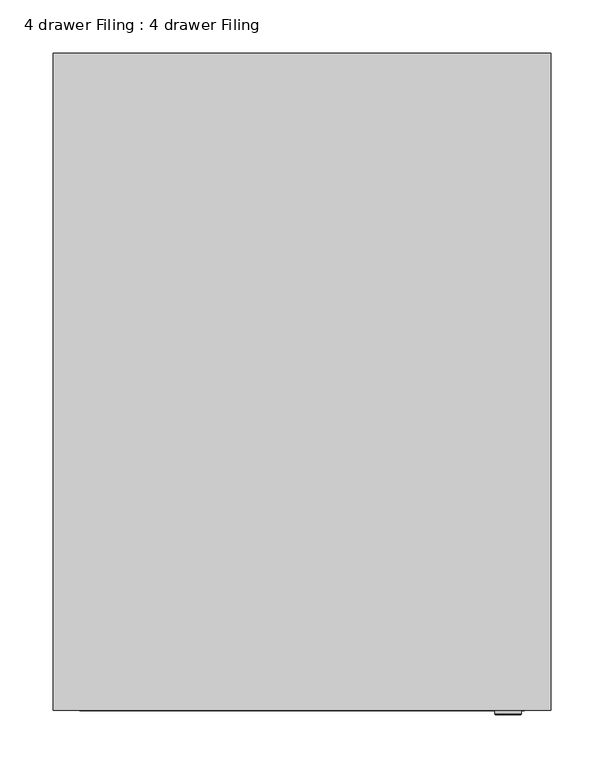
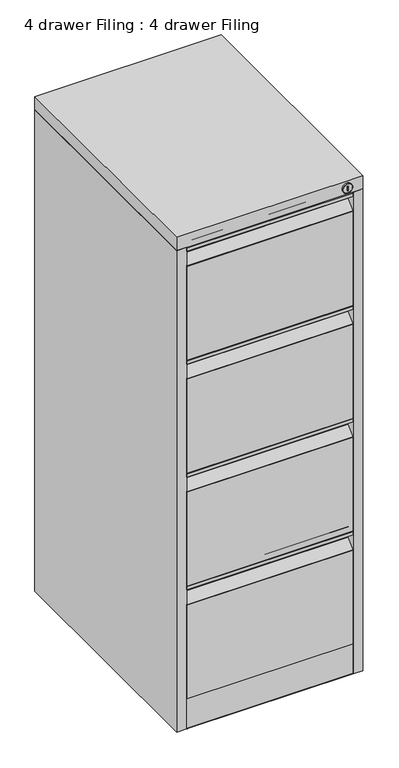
"""IFC4 building model written with IfcOpenShell, lengths in millimetres: furniture geometry, 4 drawer Filing : 4 drawer Filing."""

from ifc_helpers import new_model, si_unit, point, frame, frame_2d, origin, origin_with_axes, place, context, project, spatial, polyline, circle_curve, ellipse_curve, trimmed, segment, composite_curve, outline, extrude, source, transform, mapped, element, save
from ifc_brep_helpers import plane_surface, cylinder_surface, revolved_surface, advanced_brep


def furniture_4_drawer_filing_4_drawer_filing_29aae855(model_context):
    return source(origin(), model_context, "Body", "SolidModel", [
        extrude(outline(composite_curve([segment(polyline([(-285.0, 1284.45), (-285.0, 1255.8233613)]), True, "CONTINUOUS"), segment(trimmed(circle_curve(frame_2d((-288.1021897, 1255.8233613)), 3.1021897), [point((-285.0, 1255.8233613))], [point((-286.0167258, 1253.5267504))], False, "CARTESIAN"), True, "CONTINUOUS"), segment(polyline([(-286.0167258, 1253.5267504), (-307.3097129, 1234.191409)]), True, "CONTINUOUS"), segment(trimmed(circle_curve(frame_2d((-305.8938261, 1232.6321678)), 2.1061739), [point((-307.3097129, 1234.191409))], [point((-308.0, 1232.6321678))], True, "CARTESIAN"), True, "CONTINUOUS"), segment(polyline([(-308.0, 1232.6321678), (-308.0, 985.75), (-285.0, 985.75), (-285.0, 983.75), (-310.0, 983.75), (-310.0, 1233.643895)]), True, "CONTINUOUS"), segment(trimmed(circle_curve(frame_2d((-308.1791457, 1233.643895)), 1.8208543), [point((-310.0, 1233.643895))], [point((-309.4032249, 1234.9919085))], False, "CARTESIAN"), True, "CONTINUOUS"), segment(polyline([(-309.4032249, 1234.9919085), (-287.5662702, 1254.821206)]), True, "CONTINUOUS"), segment(trimmed(circle_curve(frame_2d((-288.727779, 1256.1003141)), 1.727779), [point((-287.5662702, 1254.821206))], [point((-287.0, 1256.1003141))], True, "CARTESIAN"), True, "CONTINUOUS"), segment(polyline([(-287.0, 1256.1003141), (-287.0, 1280.4124619)]), True, "CONTINUOUS"), segment(trimmed(circle_curve(frame_2d((-289.0375381, 1280.4124619)), 2.0375381), [point((-287.0, 1280.4124619))], [point((-289.0375381, 1282.45))], True, "CARTESIAN"), True, "CONTINUOUS"), segment(polyline([(-289.0375381, 1282.45), (-308.0, 1282.45), (-308.0, 1274.45), (-310.0, 1274.45), (-310.0, 1282.5894549)]), True, "CONTINUOUS"), segment(trimmed(circle_curve(frame_2d((-308.1394549, 1282.5894549)), 1.8605451), [point((-310.0, 1282.5894549))], [point((-308.1394549, 1284.45))], False, "CARTESIAN"), True, "CONTINUOUS"), segment(polyline([(-308.1394549, 1284.45), (-285.0, 1284.45)]), True, "CONTINUOUS")], self_intersect=False)), frame((-210.0, 0.0, 0.0), z_axis=(1.0, 0.0, 0.0), x_axis=(0.0, 1.0, 0.0)), (0.0, 0.0, 1.0), 420.0),
        extrude(outline(composite_curve([segment(polyline([(-285.0, 983.2), (-285.0, 954.5733613)]), True, "CONTINUOUS"), segment(trimmed(circle_curve(frame_2d((-288.1021897, 954.5733613)), 3.1021897), [point((-285.0, 954.5733613))], [point((-286.0167258, 952.2767504))], False, "CARTESIAN"), True, "CONTINUOUS"), segment(polyline([(-286.0167258, 952.2767504), (-307.3097129, 932.941409)]), True, "CONTINUOUS"), segment(trimmed(circle_curve(frame_2d((-305.8938261, 931.3821678)), 2.1061739), [point((-307.3097129, 932.941409))], [point((-308.0, 931.3821678))], True, "CARTESIAN"), True, "CONTINUOUS"), segment(polyline([(-308.0, 931.3821678), (-308.0, 684.5), (-285.0, 684.5), (-285.0, 682.5), (-310.0, 682.5), (-310.0, 932.393895)]), True, "CONTINUOUS"), segment(trimmed(circle_curve(frame_2d((-308.1791457, 932.393895)), 1.8208543), [point((-310.0, 932.393895))], [point((-309.4032249, 933.7419085))], False, "CARTESIAN"), True, "CONTINUOUS"), segment(polyline([(-309.4032249, 933.7419085), (-287.5662702, 953.571206)]), True, "CONTINUOUS"), segment(trimmed(circle_curve(frame_2d((-288.727779, 954.8503141)), 1.727779), [point((-287.5662702, 953.571206))], [point((-287.0, 954.8503141))], True, "CARTESIAN"), True, "CONTINUOUS"), segment(polyline([(-287.0, 954.8503141), (-287.0, 979.1624619)]), True, "CONTINUOUS"), segment(trimmed(circle_curve(frame_2d((-289.0375381, 979.1624619)), 2.0375381), [point((-287.0, 979.1624619))], [point((-289.0375381, 981.2))], True, "CARTESIAN"), True, "CONTINUOUS"), segment(polyline([(-289.0375381, 981.2), (-308.0, 981.2), (-308.0, 973.2), (-310.0, 973.2), (-310.0, 981.3394549)]), True, "CONTINUOUS"), segment(trimmed(circle_curve(frame_2d((-308.1394549, 981.3394549)), 1.8605451), [point((-310.0, 981.3394549))], [point((-308.1394549, 983.2))], False, "CARTESIAN"), True, "CONTINUOUS"), segment(polyline([(-308.1394549, 983.2), (-285.0, 983.2)]), True, "CONTINUOUS")], self_intersect=False)), frame((-210.0, 0.0, 0.0), z_axis=(1.0, 0.0, 0.0), x_axis=(0.0, 1.0, 0.0)), (0.0, 0.0, 1.0), 420.0),
        extrude(outline(composite_curve([segment(polyline([(-285.0, 681.95), (-285.0, 653.3233613)]), True, "CONTINUOUS"), segment(trimmed(circle_curve(frame_2d((-288.1021897, 653.3233613)), 3.1021897), [point((-285.0, 653.3233613))], [point((-286.0167258, 651.0267504))], False, "CARTESIAN"), True, "CONTINUOUS"), segment(polyline([(-286.0167258, 651.0267504), (-307.3097129, 631.691409)]), True, "CONTINUOUS"), segment(trimmed(circle_curve(frame_2d((-305.8938261, 630.1321678)), 2.1061739), [point((-307.3097129, 631.691409))], [point((-308.0, 630.1321678))], True, "CARTESIAN"), True, "CONTINUOUS"), segment(polyline([(-308.0, 630.1321678), (-308.0, 383.25), (-285.0, 383.25), (-285.0, 381.25), (-310.0, 381.25), (-310.0, 631.143895)]), True, "CONTINUOUS"), segment(trimmed(circle_curve(frame_2d((-308.1791457, 631.143895)), 1.8208543), [point((-310.0, 631.143895))], [point((-309.4032249, 632.4919085))], False, "CARTESIAN"), True, "CONTINUOUS"), segment(polyline([(-309.4032249, 632.4919085), (-287.5662702, 652.321206)]), True, "CONTINUOUS"), segment(trimmed(circle_curve(frame_2d((-288.727779, 653.6003141)), 1.727779), [point((-287.5662702, 652.321206))], [point((-287.0, 653.6003141))], True, "CARTESIAN"), True, "CONTINUOUS"), segment(polyline([(-287.0, 653.6003141), (-287.0, 677.9124619)]), True, "CONTINUOUS"), segment(trimmed(circle_curve(frame_2d((-289.0375381, 677.9124619)), 2.0375381), [point((-287.0, 677.9124619))], [point((-289.0375381, 679.95))], True, "CARTESIAN"), True, "CONTINUOUS"), segment(polyline([(-289.0375381, 679.95), (-308.0, 679.95), (-308.0, 671.95), (-310.0, 671.95), (-310.0, 680.0894549)]), True, "CONTINUOUS"), segment(trimmed(circle_curve(frame_2d((-308.1394549, 680.0894549)), 1.8605451), [point((-310.0, 680.0894549))], [point((-308.1394549, 681.95))], False, "CARTESIAN"), True, "CONTINUOUS"), segment(polyline([(-308.1394549, 681.95), (-285.0, 681.95)]), True, "CONTINUOUS")], self_intersect=False)), frame((-210.0, 0.0, 0.0), z_axis=(1.0, 0.0, 0.0), x_axis=(0.0, 1.0, 0.0)), (0.0, 0.0, 1.0), 420.0),
        extrude(outline(composite_curve([segment(polyline([(-285.0, 380.7), (-285.0, 352.0733613)]), True, "CONTINUOUS"), segment(trimmed(circle_curve(frame_2d((-288.1021897, 352.0733613)), 3.1021897), [point((-285.0, 352.0733613))], [point((-286.0167258, 349.7767504))], False, "CARTESIAN"), True, "CONTINUOUS"), segment(polyline([(-286.0167258, 349.7767504), (-307.3097129, 330.441409)]), True, "CONTINUOUS"), segment(trimmed(circle_curve(frame_2d((-305.8938261, 328.8821678)), 2.1061739), [point((-307.3097129, 330.441409))], [point((-308.0, 328.8821678))], True, "CARTESIAN"), True, "CONTINUOUS"), segment(polyline([(-308.0, 328.8821678), (-308.0, 82.0), (-285.0, 82.0), (-285.0, 80.0), (-310.0, 80.0), (-310.0, 329.893895)]), True, "CONTINUOUS"), segment(trimmed(circle_curve(frame_2d((-308.1791457, 329.893895)), 1.8208543), [point((-310.0, 329.893895))], [point((-309.4032249, 331.2419085))], False, "CARTESIAN"), True, "CONTINUOUS"), segment(polyline([(-309.4032249, 331.2419085), (-287.5662702, 351.071206)]), True, "CONTINUOUS"), segment(trimmed(circle_curve(frame_2d((-288.727779, 352.3503141)), 1.727779), [point((-287.5662702, 351.071206))], [point((-287.0, 352.3503141))], True, "CARTESIAN"), True, "CONTINUOUS"), segment(polyline([(-287.0, 352.3503141), (-287.0, 376.6624619)]), True, "CONTINUOUS"), segment(trimmed(circle_curve(frame_2d((-289.0375381, 376.6624619)), 2.0375381), [point((-287.0, 376.6624619))], [point((-289.0375381, 378.7))], True, "CARTESIAN"), True, "CONTINUOUS"), segment(polyline([(-289.0375381, 378.7), (-308.0, 378.7), (-308.0, 370.7), (-310.0, 370.7), (-310.0, 378.8394549)]), True, "CONTINUOUS"), segment(trimmed(circle_curve(frame_2d((-308.1394549, 378.8394549)), 1.8605451), [point((-310.0, 378.8394549))], [point((-308.1394549, 380.7))], False, "CARTESIAN"), True, "CONTINUOUS"), segment(polyline([(-308.1394549, 380.7), (-285.0, 380.7)]), True, "CONTINUOUS")], self_intersect=False)), frame((-210.0, 0.0, 0.0), z_axis=(1.0, 0.0, 0.0), x_axis=(0.0, 1.0, 0.0)), (0.0, 0.0, 1.0), 420.0),
        extrude(outline(polyline([(195.5273848, -310.0), (193.5273848, -310.0), (193.5273848, -210.0), (195.5273848, -210.0), (195.5273848, -310.0)])), frame((0.0, 0.0, 1296.6206655), z_axis=(0.0, 0.0, 1.0), x_axis=(1.0, 0.0, 0.0)), (0.0, 0.0, 1.0), 12.0),
        advanced_brep(
        [(182.9473365, -314.0, 1302.5526635), (206.0526635, -314.0, 1302.5526635), (195.5273848, -314.0, 1308.6206655), (195.5273848, -314.0, 1296.6206655), (193.5273848, -314.0, 1296.6206655), (193.5273848, -314.0, 1308.6206655), (181.9473365, -310.0, 1302.5526635), (207.0526635, -310.0, 1302.5526635), (195.5273848, -310.0, 1308.6206655), (193.5273848, -310.0, 1308.6206655), (193.5273848, -310.0, 1296.6206655), (195.5273848, -310.0, 1296.6206655), (207.0526635, -313.0, 1302.5526635), (181.9473365, -313.0, 1302.5526635)],
        [
            (0, 1, circle_curve(frame((194.5, -314.0, 1302.5526635), z_axis=(0.0, -1.0, 0.0), x_axis=(1.0, 0.0, 0.0)), 11.5526635)),
            (1, 0, circle_curve(frame((194.5, -314.0, 1302.5526635), z_axis=(0.0, -1.0, 0.0), x_axis=(-1.0, 0.0, 0.0)), 11.5526635)),
            (2, 3),
            (3, 4),
            (4, 5),
            (5, 2),
            (6, 7, circle_curve(frame((194.5, -310.0, 1302.5526635), z_axis=(0.0, 1.0, 0.0), x_axis=(1.0, 0.0, 0.0)), 12.5526635)),
            (7, 6, circle_curve(frame((194.5, -310.0, 1302.5526635), z_axis=(0.0, 1.0, 0.0), x_axis=(1.0, 0.0, 0.0)), 12.5526635)),
            (8, 9),
            (9, 10),
            (10, 11),
            (11, 8),
            (7, 12),
            (12, 13, circle_curve(frame((194.5, -313.0, 1302.5526635), z_axis=(0.0, 1.0, 0.0), x_axis=(1.0, 0.0, 0.0)), 12.5526635)),
            (13, 6),
            (13, 12, circle_curve(frame((194.5, -313.0, 1302.5526635), z_axis=(0.0, 1.0, 0.0), x_axis=(1.0, 0.0, 0.0)), 12.5526635)),
            (2, 8),
            (11, 3),
            (10, 4),
            (9, 5),
            (0, 13, circle_curve(frame((182.9473365, -313.0, 1302.5526635), z_axis=(0.0, 0.0, -1.0), x_axis=(-1.0, 0.0, 0.0)), 1.0)),
            (12, 1, circle_curve(frame((206.0526635, -313.0, 1302.5526635), z_axis=(0.0, 0.0, -1.0), x_axis=(1.0, 0.0, 0.0)), 1.0)),
        ],
        [
            plane_surface(frame((207.0526635, -314.0, 1302.5526635), z_axis=(0.0, -1.0, 0.0), x_axis=(0.0, 0.0, 1.0))),
            plane_surface(frame((207.0526635, -310.0, 1302.5526635), z_axis=(0.0, 1.0, 0.0), x_axis=(0.0, 0.0, -1.0))),
            cylinder_surface(frame((194.5, -310.0, 1302.5526635), z_axis=(0.0, -1.0, 0.0), x_axis=(1.0, 0.0, 0.0)), 12.5526635),
            plane_surface(frame((195.5273848, -314.0, 1308.6206655), z_axis=(-1.0, 0.0, 0.0), x_axis=(0.0, 1.0, 0.0))),
            plane_surface(frame((195.5273848, -314.0, 1296.6206655), z_axis=(0.0, 0.0, 1.0), x_axis=(0.0, 1.0, 0.0))),
            plane_surface(frame((193.5273848, -314.0, 1296.6206655), z_axis=(1.0, 0.0, 0.0), x_axis=(0.0, 1.0, 0.0))),
            plane_surface(frame((193.5273848, -314.0, 1308.6206655), z_axis=(0.0, 0.0, -1.0), x_axis=(0.0, 1.0, 0.0))),
            revolved_surface(trimmed(ellipse_curve(frame((206.0526635, -313.0, 1302.5526635), z_axis=(0.0, 0.0, 1.0), x_axis=(1.0, 0.0, 0.0)), 1.0, 1.0), [point((206.0526635, -314.0, 1302.5526635))], [point((207.0526635, -313.0, 1302.5526635))], True, "CARTESIAN"), (194.5, -314.0, 1302.5526635), (0.0, 1.0, 0.0)),
            revolved_surface(trimmed(ellipse_curve(frame((182.9473365, -313.0, 1302.5526635), z_axis=(0.0, 0.0, -1.0), x_axis=(-1.0, 0.0, 0.0)), 1.0, 1.0), [point((182.9473365, -314.0, 1302.5526635))], [point((181.9473365, -313.0, 1302.5526635))], True, "CARTESIAN"), (194.5, -314.0, 1302.5526635), (0.0, 1.0, 0.0)),
        ],
        [
            (0, [[1, 2], [3, 4, 5, 6]]),
            (1, [[7, 8], [9, 10, 11, 12]]),
            (2, [[-8, 13, 14, 15]]),
            (2, [[-7, -15, 16, -13]]),
            (3, [[-3, 17, -12, 18]]),
            (4, [[-4, -18, -11, 19]]),
            (5, [[-5, -19, -10, 20]]),
            (6, [[-6, -20, -9, -17]]),
            (7, [[21, -14, 22, -1]]),
            (8, [[-21, -2, -22, -16]]),
        ],
    ),
        extrude(outline(polyline([(209.5, -210.0), (209.5, -310.0), (-209.5107425, -310.0), (-209.5107425, -210.0), (209.5, -210.0)])), frame((0.0, 0.0, 1.0), z_axis=(0.0, 0.0, 1.0), x_axis=(1.0, 0.0, 0.0)), (0.0, 0.0, 1.0), 79.0),
        extrude(outline(polyline([(210.0, -310.0), (-210.0, -310.0), (-210.0, 285.0), (210.0, 285.0), (210.0, -310.0)])), origin_with_axes(), (0.0, 0.0, 1.0), 1.0),
        extrude(outline(polyline([(-210.0, 310.0), (-210.0, -310.0), (-235.0, -310.0), (-235.0, 310.0), (-210.0, 310.0)])), origin_with_axes(), (0.0, 0.0, 1.0), 1285.0),
        extrude(outline(polyline([(235.0, 310.0), (235.0, -310.0), (210.0, -310.0), (210.0, 310.0), (235.0, 310.0)])), origin_with_axes(), (0.0, 0.0, 1.0), 1285.0),
        extrude(outline(polyline([(210.0, 310.0), (210.0, 285.0), (-210.0, 285.0), (-210.0, 310.0), (210.0, 310.0)])), origin_with_axes(), (0.0, 0.0, 1.0), 1285.0),
        extrude(outline(polyline([(235.0, 310.0), (235.0, -310.0), (-235.0, -310.0), (-235.0, 310.0), (235.0, 310.0)])), frame((0.0, 0.0, 1285.0), z_axis=(0.0, 0.0, 1.0), x_axis=(1.0, 0.0, 0.0)), (0.0, 0.0, 1.0), 35.0),
    ])


if __name__ == "__main__":
    model = new_model("IFC4")
    model_context = context("Model", 3, world=origin())
    ifc_project = project(units=[si_unit("LENGTHUNIT", "METRE", prefix="MILLI")], contexts=[model_context])
    site = spatial("IfcSite", under=ifc_project)
    building = spatial("IfcBuilding", under=site)
    placement = place(None, origin())
    furniture_4_drawer_filing_4_drawer_filing_shape = furniture_4_drawer_filing_4_drawer_filing_29aae855(model_context)
    element("IfcFurniture", 1, ObjectType="4 drawer Filing : 4 drawer Filing", at=placement, inside=building, context=model_context, shape_type="MappedRepresentation", body=[
        mapped(furniture_4_drawer_filing_4_drawer_filing_shape, transform((0.0, 0.0, 0.0), x_axis=(1.0, 0.0, 0.0), y_axis=(0.0, 1.0, 0.0), z_axis=(0.0, 0.0, 1.0))),
    ])
    save(model, "model.ifc")
